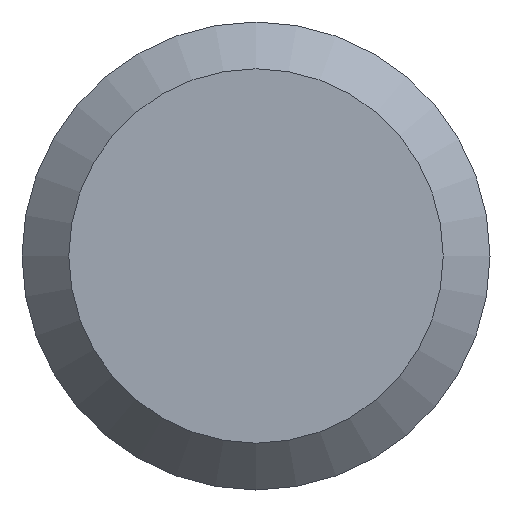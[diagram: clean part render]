
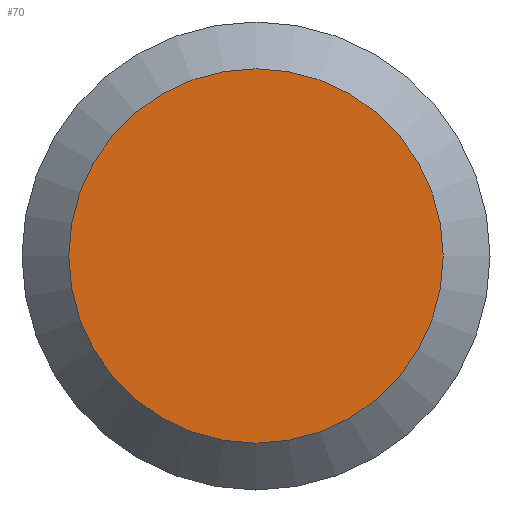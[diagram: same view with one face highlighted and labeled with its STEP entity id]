
A CAD part, left-side view. The second image highlights one B-rep face of the part: STEP entity #70.
In plain terms, the highlighted planar face has unit normal (-1, 0, 0).
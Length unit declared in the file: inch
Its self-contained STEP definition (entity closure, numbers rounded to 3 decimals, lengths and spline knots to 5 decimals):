
#5 = AXIS2_PLACEMENT_3D ( 'NONE', #214, #229, #176 ) ;
#39 = VERTEX_POINT ( 'NONE', #56 ) ;
#52 = EDGE_LOOP ( 'NONE', ( #120 ) ) ;
#56 = CARTESIAN_POINT ( 'NONE',  ( 0., 0., -0.13125 ) ) ;
#61 = CARTESIAN_POINT ( 'NONE',  ( 0., 0.16406, 0. ) ) ;
#70 = ADVANCED_FACE ( 'NONE', ( #234 ), #171, .F. ) ;
#120 = ORIENTED_EDGE ( 'NONE', *, *, #213, .T. ) ;
#144 = CIRCLE ( 'NONE', #5, 0.13125 ) ;
#171 = PLANE ( 'NONE',  #227 ) ;
#176 = DIRECTION ( 'NONE',  ( 0., 0., -1. ) ) ;
#185 = DIRECTION ( 'NONE',  ( 0., 0., -1. ) ) ;
#195 = DIRECTION ( 'NONE',  ( 1., 0., 0. ) ) ;
#213 = EDGE_CURVE ( 'NONE', #39, #39, #144, .T. ) ;
#214 = CARTESIAN_POINT ( 'NONE',  ( 0., 0., 0. ) ) ;
#227 = AXIS2_PLACEMENT_3D ( 'NONE', #61, #195, #185 ) ;
#229 = DIRECTION ( 'NONE',  ( -1., 0., 0. ) ) ;
#234 = FACE_OUTER_BOUND ( 'NONE', #52, .T. ) ;
